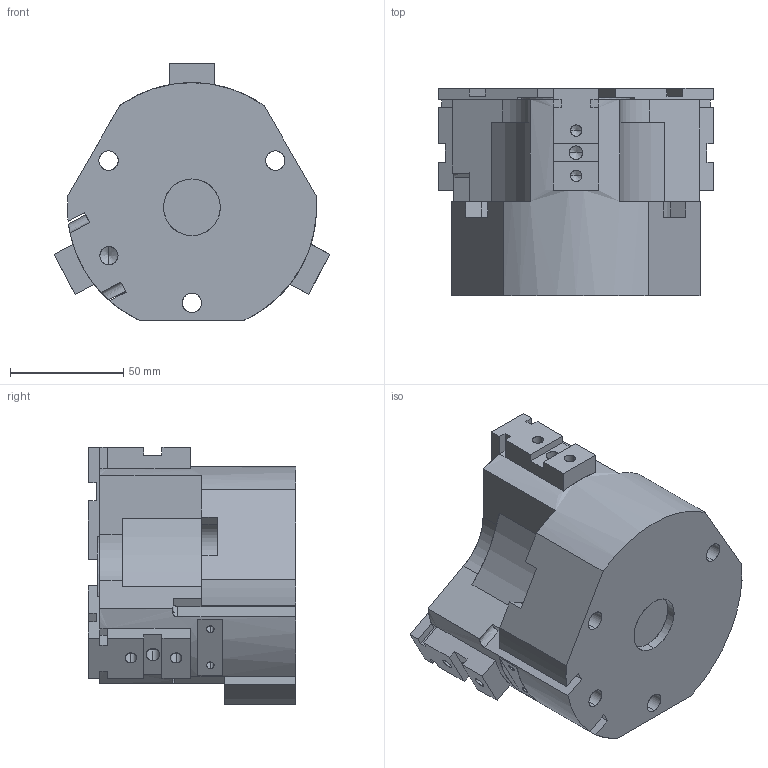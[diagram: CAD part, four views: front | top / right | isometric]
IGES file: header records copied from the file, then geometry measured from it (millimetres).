
Start section: SolidWorks IGES file using analytic representation for surfaces
Global section: file name: C:\Documents and Settings\SGA\Bureau\ROMAIN\OPE 110-3\OPE 110-3 fermé.IGS; native system: SolidWorks 2010; preprocessor: SolidWorks 2010; author: SGA; date: 110928.095824; units: millimetre
Bounding box: 121.7 x 91.5 x 113.48 mm (x, y, z)
Surface area: 97118.4 mm2 (no closed solid volume)
Topology: 0 solids, 0 shells, 601 faces, 6796 edges, 6750 vertices
Faces by surface type: bspline 481, revolution 120
